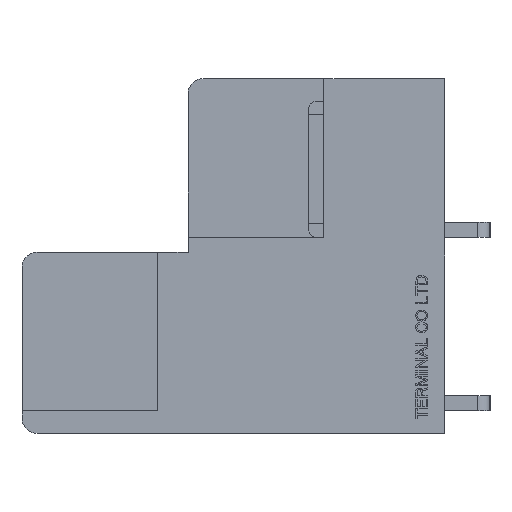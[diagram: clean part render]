
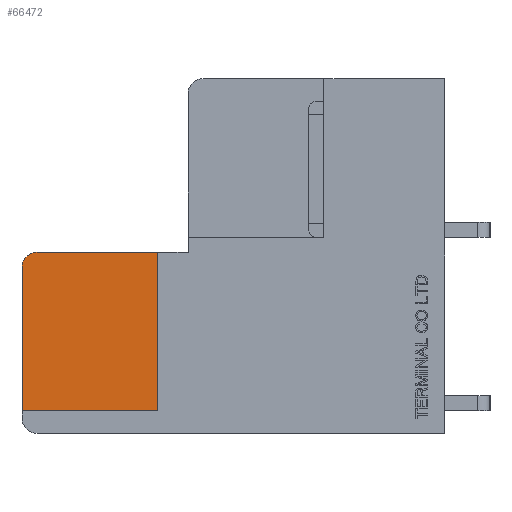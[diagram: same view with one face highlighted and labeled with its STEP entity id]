
A CAD part, left-side view. The second image highlights one B-rep face of the part: STEP entity #66472.
In plain terms, the highlighted planar face has unit normal (-1, 0, 0).
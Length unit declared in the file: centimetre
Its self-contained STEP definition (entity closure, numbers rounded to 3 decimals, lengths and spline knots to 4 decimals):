
#782=CIRCLE('',#113638,0.1);
#3750=VERTEX_POINT('',#87819);
#3751=VERTEX_POINT('',#87820);
#3754=VERTEX_POINT('',#87828);
#3756=VERTEX_POINT('',#87834);
#3757=VERTEX_POINT('',#87836);
#10717=VECTOR('',#73776,1.);
#10721=VECTOR('',#73781,1.);
#10724=VECTOR('',#73785,1.);
#10725=VECTOR('',#73788,1.);
#18604=LINE('',#87818,#10717);
#18608=LINE('',#87827,#10721);
#18611=LINE('',#87833,#10724);
#18612=LINE('',#87837,#10725);
#26589=EDGE_CURVE('',#3750,#3751,#18604,.T.);
#26593=EDGE_CURVE('',#3754,#3750,#18608,.T.);
#26596=EDGE_CURVE('',#3756,#3751,#18611,.T.);
#26597=EDGE_CURVE('',#3757,#3756,#782,.T.);
#26598=EDGE_CURVE('',#3754,#3757,#18612,.T.);
#37345=ORIENTED_EDGE('',*,*,#26593,.T.);
#37346=ORIENTED_EDGE('',*,*,#26589,.T.);
#37347=ORIENTED_EDGE('',*,*,#26596,.F.);
#37348=ORIENTED_EDGE('',*,*,#26597,.F.);
#37349=ORIENTED_EDGE('',*,*,#26598,.F.);
#57760=EDGE_LOOP('',(#37345,#37346,#37347,#37348,#37349));
#62118=FACE_BOUND('',#57760,.T.);
#66472=ADVANCED_FACE('',(#62118),#70445,.F.);
#70445=PLANE('',#113637);
#73776=DIRECTION('',(0.,0.,1.));
#73781=DIRECTION('',(0.,-1.,0.));
#73784=DIRECTION('',(1.,0.,0.));
#73785=DIRECTION('',(0.,-1.,0.));
#73786=DIRECTION('',(1.,0.,0.));
#73787=DIRECTION('',(0.,0.,-0.1));
#73788=DIRECTION('',(0.,0.,1.));
#87818=CARTESIAN_POINT('',(-2.86,-0.145,0.0375));
#87819=CARTESIAN_POINT('',(-2.86,-0.145,-0.45));
#87820=CARTESIAN_POINT('',(-2.86,-0.145,0.6));
#87827=CARTESIAN_POINT('',(-2.86,-0.1777,-0.45));
#87828=CARTESIAN_POINT('',(-2.86,0.755,-0.45));
#87832=CARTESIAN_POINT('',(-2.86,-0.6604,0.));
#87833=CARTESIAN_POINT('',(-2.86,0.655,0.6));
#87834=CARTESIAN_POINT('',(-2.86,0.655,0.6));
#87835=CARTESIAN_POINT('',(-2.86,0.655,0.5));
#87836=CARTESIAN_POINT('',(-2.86,0.755,0.5));
#87837=CARTESIAN_POINT('',(-2.86,0.755,-0.5));
#113637=AXIS2_PLACEMENT_3D('',#87832,#73784,$);
#113638=AXIS2_PLACEMENT_3D('',#87835,#73786,#73787);
